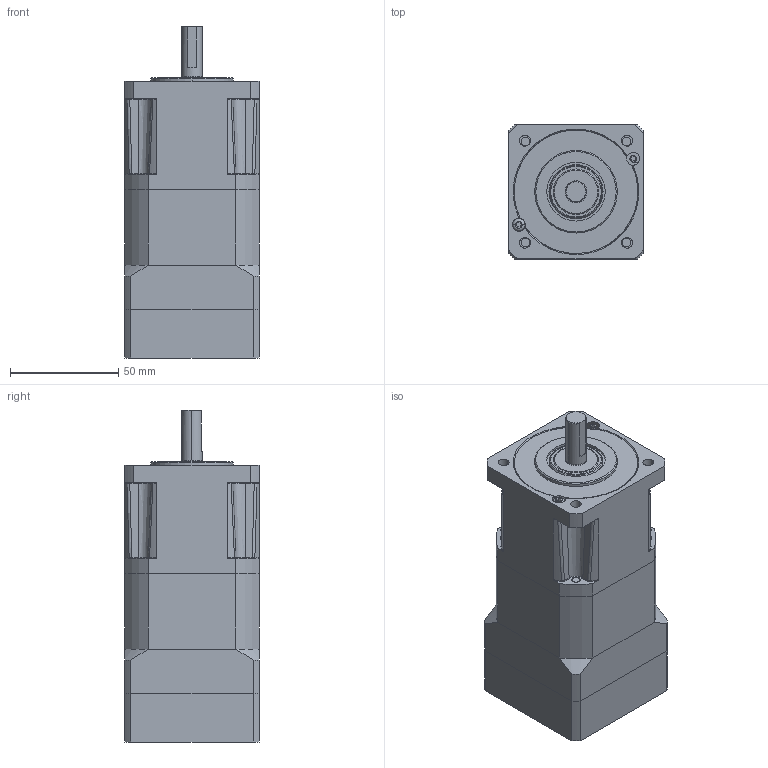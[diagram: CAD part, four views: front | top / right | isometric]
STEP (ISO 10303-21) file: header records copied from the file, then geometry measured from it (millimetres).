
FILE_DESCRIPTION((''),'2;1');
FILE_NAME('GEN_II_PX23_DOUBLE_LONG_ADAPT','2008-11-20T',('aza7363'),(''),'PRO/ENGINEER BY PARAMETRIC TECHNOLOGY CORPORATION, 2006300','PRO/ENGINEER BY PARAMETRIC TECHNOLOGY CORPORATION, 2006300','');
FILE_SCHEMA(('CONFIG_CONTROL_DESIGN'));
Length unit declared in the file: millimetre
Products named in the file (1): GEN_II_PX23_DOUBLE_LONG_ADAPT
Bounding box: 62 x 62 x 153.2 mm (x, y, z)
Surface area: 55139.3 mm2 (no closed solid volume)
Topology: 0 solids, 28 shells, 345 faces, 979 edges, 662 vertices
Faces by surface type: plane 152, cylinder 120, bspline 29, cone 22, torus 22
Entity records: 12731 total; most frequent: CARTESIAN_POINT 3822, DIRECTION 1890, ORIENTED_EDGE 1693, EDGE_CURVE 979, AXIS2_PLACEMENT_3D 720, VERTEX_POINT 662, VECTOR 450, LINE 450
